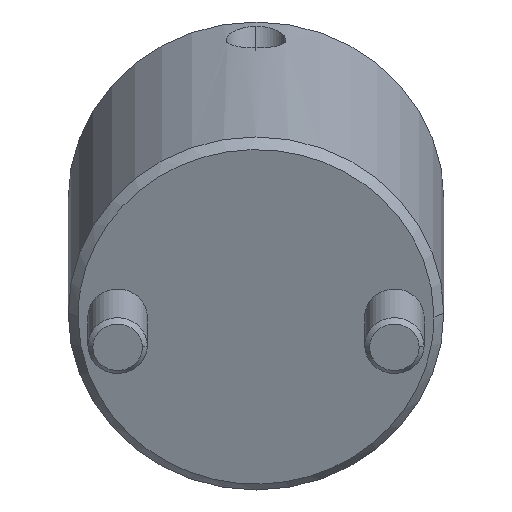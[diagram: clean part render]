
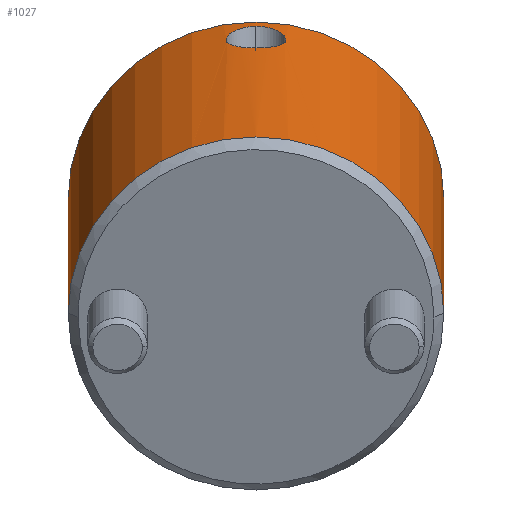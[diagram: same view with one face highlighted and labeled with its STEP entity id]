
A CAD part, front view. The second image highlights one B-rep face of the part: STEP entity #1027.
In plain terms, the highlighted cylindrical face has radius 19 mm (diameter 38 mm), a partial arc.
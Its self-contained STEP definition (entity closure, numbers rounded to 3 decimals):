
#760=CARTESIAN_POINT('Vertex',(0.,19.,1.)) ;
#763=CARTESIAN_POINT('Axis2P3D Location',(0.,0.,1.)) ;
#767=CARTESIAN_POINT('Vertex',(0.,-19.,1.)) ;
#919=CARTESIAN_POINT('Axis2P3D Location',(0.,0.,-1.8)) ;
#924=CARTESIAN_POINT('Line Origine',(0.,19.,-1.8)) ;
#928=CARTESIAN_POINT('Vertex',(0.,19.,35.)) ;
#931=CARTESIAN_POINT('Axis2P3D Location',(0.,0.,35.)) ;
#935=CARTESIAN_POINT('Vertex',(0.,-19.,35.)) ;
#938=CARTESIAN_POINT('Line Origine',(0.,-19.,-1.8)) ;
#950=CARTESIAN_POINT('Control Point',(19.,0.,33.73)) ;
#951=CARTESIAN_POINT('Control Point',(19.,0.079,33.73)) ;
#952=CARTESIAN_POINT('Control Point',(19.,0.158,33.727)) ;
#953=CARTESIAN_POINT('Control Point',(18.999,0.237,33.721)) ;
#954=CARTESIAN_POINT('Control Point',(18.995,0.474,33.695)) ;
#955=CARTESIAN_POINT('Control Point',(18.988,0.71,33.641)) ;
#956=CARTESIAN_POINT('Control Point',(18.981,0.869,33.592)) ;
#957=CARTESIAN_POINT('Control Point',(18.965,1.177,33.474)) ;
#958=CARTESIAN_POINT('Control Point',(18.944,1.464,33.312)) ;
#959=CARTESIAN_POINT('Control Point',(18.933,1.604,33.218)) ;
#960=CARTESIAN_POINT('Control Point',(18.908,1.875,33.011)) ;
#961=CARTESIAN_POINT('Control Point',(18.882,2.118,32.766)) ;
#962=CARTESIAN_POINT('Control Point',(18.869,2.233,32.633)) ;
#963=CARTESIAN_POINT('Control Point',(18.836,2.5,32.278)) ;
#964=CARTESIAN_POINT('Control Point',(18.806,2.71,31.875)) ;
#965=CARTESIAN_POINT('Control Point',(18.791,2.811,31.624)) ;
#966=CARTESIAN_POINT('Control Point',(18.771,2.939,31.185)) ;
#967=CARTESIAN_POINT('Control Point',(18.762,2.995,30.734)) ;
#968=CARTESIAN_POINT('Control Point',(18.761,3.006,30.555)) ;
#969=CARTESIAN_POINT('Control Point',(18.761,3.002,30.198)) ;
#970=CARTESIAN_POINT('Control Point',(18.769,2.952,29.847)) ;
#971=CARTESIAN_POINT('Control Point',(18.775,2.916,29.674)) ;
#972=CARTESIAN_POINT('Control Point',(18.79,2.822,29.339)) ;
#973=CARTESIAN_POINT('Control Point',(18.81,2.683,29.023)) ;
#974=CARTESIAN_POINT('Control Point',(18.821,2.603,28.87)) ;
#975=CARTESIAN_POINT('Control Point',(18.846,2.423,28.578)) ;
#976=CARTESIAN_POINT('Control Point',(18.872,2.207,28.317)) ;
#977=CARTESIAN_POINT('Control Point',(18.885,2.09,28.195)) ;
#978=CARTESIAN_POINT('Control Point',(18.912,1.841,27.969)) ;
#979=CARTESIAN_POINT('Control Point',(18.936,1.563,27.78)) ;
#980=CARTESIAN_POINT('Control Point',(18.948,1.418,27.696)) ;
#981=CARTESIAN_POINT('Control Point',(18.972,1.063,27.523)) ;
#982=CARTESIAN_POINT('Control Point',(18.99,0.68,27.41)) ;
#983=CARTESIAN_POINT('Control Point',(18.997,0.455,27.366)) ;
#984=CARTESIAN_POINT('Control Point',(19.,0.228,27.344)) ;
#985=CARTESIAN_POINT('Control Point',(19.,0.,27.344)) ;
#986=CARTESIAN_POINT('Vertex',(19.,0.,33.73)) ;
#988=CARTESIAN_POINT('Vertex',(19.,0.,27.344)) ;
#992=CARTESIAN_POINT('Control Point',(19.,0.,27.344)) ;
#993=CARTESIAN_POINT('Control Point',(19.,-0.084,27.344)) ;
#994=CARTESIAN_POINT('Control Point',(19.,-0.167,27.347)) ;
#995=CARTESIAN_POINT('Control Point',(18.999,-0.25,27.353)) ;
#996=CARTESIAN_POINT('Control Point',(18.995,-0.499,27.379)) ;
#997=CARTESIAN_POINT('Control Point',(18.986,-0.745,27.432)) ;
#998=CARTESIAN_POINT('Control Point',(18.979,-0.909,27.479)) ;
#999=CARTESIAN_POINT('Control Point',(18.953,-1.384,27.653)) ;
#1000=CARTESIAN_POINT('Control Point',(18.917,-1.81,27.924)) ;
#1001=CARTESIAN_POINT('Control Point',(18.889,-2.071,28.145)) ;
#1002=CARTESIAN_POINT('Control Point',(18.841,-2.465,28.594)) ;
#1003=CARTESIAN_POINT('Control Point',(18.801,-2.743,29.131)) ;
#1004=CARTESIAN_POINT('Control Point',(18.787,-2.837,29.372)) ;
#1005=CARTESIAN_POINT('Control Point',(18.769,-2.954,29.795)) ;
#1006=CARTESIAN_POINT('Control Point',(18.762,-3.,30.236)) ;
#1007=CARTESIAN_POINT('Control Point',(18.761,-3.007,30.413)) ;
#1008=CARTESIAN_POINT('Control Point',(18.762,-2.997,30.773)) ;
#1009=CARTESIAN_POINT('Control Point',(18.771,-2.939,31.131)) ;
#1010=CARTESIAN_POINT('Control Point',(18.778,-2.898,31.31)) ;
#1011=CARTESIAN_POINT('Control Point',(18.802,-2.743,31.832)) ;
#1012=CARTESIAN_POINT('Control Point',(18.838,-2.488,32.314)) ;
#1013=CARTESIAN_POINT('Control Point',(18.865,-2.279,32.609)) ;
#1014=CARTESIAN_POINT('Control Point',(18.906,-1.921,32.992)) ;
#1015=CARTESIAN_POINT('Control Point',(18.941,-1.503,33.286)) ;
#1016=CARTESIAN_POINT('Control Point',(18.952,-1.362,33.372)) ;
#1017=CARTESIAN_POINT('Control Point',(18.975,-1.019,33.548)) ;
#1018=CARTESIAN_POINT('Control Point',(18.991,-0.648,33.663)) ;
#1019=CARTESIAN_POINT('Control Point',(18.997,-0.432,33.708)) ;
#1020=CARTESIAN_POINT('Control Point',(19.,-0.217,33.73)) ;
#1021=CARTESIAN_POINT('Control Point',(19.,0.,33.73)) ;
#764=DIRECTION('Axis2P3D Direction',(0.,0.,1.)) ;
#920=DIRECTION('Axis2P3D Direction',(0.,-0.,1.)) ;
#921=DIRECTION('Axis2P3D XDirection',(0.,-1.,0.)) ;
#925=DIRECTION('Vector Direction',(0.,0.,1.)) ;
#932=DIRECTION('Axis2P3D Direction',(0.,-0.,1.)) ;
#939=DIRECTION('Vector Direction',(0.,0.,1.)) ;
#765=AXIS2_PLACEMENT_3D('Circle Axis2P3D',#763,#764,$) ;
#922=AXIS2_PLACEMENT_3D('Cylinder Axis2P3D',#919,#920,#921) ;
#933=AXIS2_PLACEMENT_3D('Circle Axis2P3D',#931,#932,$) ;
#944=ORIENTED_EDGE('',*,*,#930,.F.) ;
#945=ORIENTED_EDGE('',*,*,#937,.T.) ;
#946=ORIENTED_EDGE('',*,*,#942,.T.) ;
#947=ORIENTED_EDGE('',*,*,#769,.F.) ;
#1024=ORIENTED_EDGE('',*,*,#990,.T.) ;
#1025=ORIENTED_EDGE('',*,*,#1022,.T.) ;
#1026=FACE_BOUND('',#1023,.T.) ;
#926=VECTOR('Line Direction',#925,1.) ;
#940=VECTOR('Line Direction',#939,1.) ;
#1027=ADVANCED_FACE('MANIFOLD_SOLID_BREP #1116',(#948,#1026),#923,.T.) ;
#949=B_SPLINE_CURVE_WITH_KNOTS('',5,(#950,#951,#952,#953,#954,#955,#956,#957,#958,#959,#960,#961,#962,#963,#964,#965,#966,#967,#968,#969,#970,#971,#972,#973,#974,#975,#976,#977,#978,#979,#980,#981,#982,#983,#984,#985),.UNSPECIFIED.,.F.,.U.,(6,3,3,3,3,3,3,3,3,3,3,6),(0.,0.58,1.759,2.973,4.216,6.084,7.319,8.543,9.755,10.958,12.159,13.791),.UNSPECIFIED.) ;
#991=B_SPLINE_CURVE_WITH_KNOTS('',5,(#992,#993,#994,#995,#996,#997,#998,#999,#1000,#1001,#1002,#1003,#1004,#1005,#1006,#1007,#1008,#1009,#1010,#1011,#1012,#1013,#1014,#1015,#1016,#1017,#1018,#1019,#1020,#1021),.UNSPECIFIED.,.F.,.U.,(6,3,3,3,3,3,3,3,3,6),(0.,0.601,1.804,4.221,6.049,7.276,8.518,10.997,12.197,13.788),.UNSPECIFIED.) ;
#766=CIRCLE('generated circle',#765,19.) ;
#934=CIRCLE('generated circle',#933,19.) ;
#923=CYLINDRICAL_SURFACE('generated cylinder',#922,19.) ;
#769=EDGE_CURVE('',#761,#768,#766,.F.) ;
#930=EDGE_CURVE('',#929,#761,#927,.F.) ;
#937=EDGE_CURVE('',#929,#936,#934,.F.) ;
#942=EDGE_CURVE('',#936,#768,#941,.F.) ;
#990=EDGE_CURVE('',#987,#989,#949,.T.) ;
#1022=EDGE_CURVE('',#989,#987,#991,.T.) ;
#943=EDGE_LOOP('',(#944,#945,#946,#947)) ;
#1023=EDGE_LOOP('',(#1024,#1025)) ;
#948=FACE_OUTER_BOUND('',#943,.T.) ;
#927=LINE('Line',#924,#926) ;
#941=LINE('Line',#938,#940) ;
#761=VERTEX_POINT('',#760) ;
#768=VERTEX_POINT('',#767) ;
#929=VERTEX_POINT('',#928) ;
#936=VERTEX_POINT('',#935) ;
#987=VERTEX_POINT('',#986) ;
#989=VERTEX_POINT('',#988) ;
